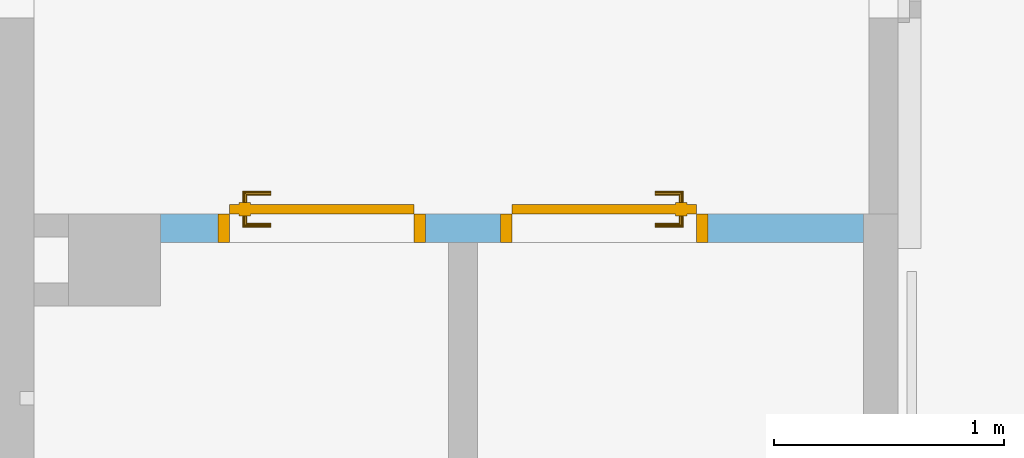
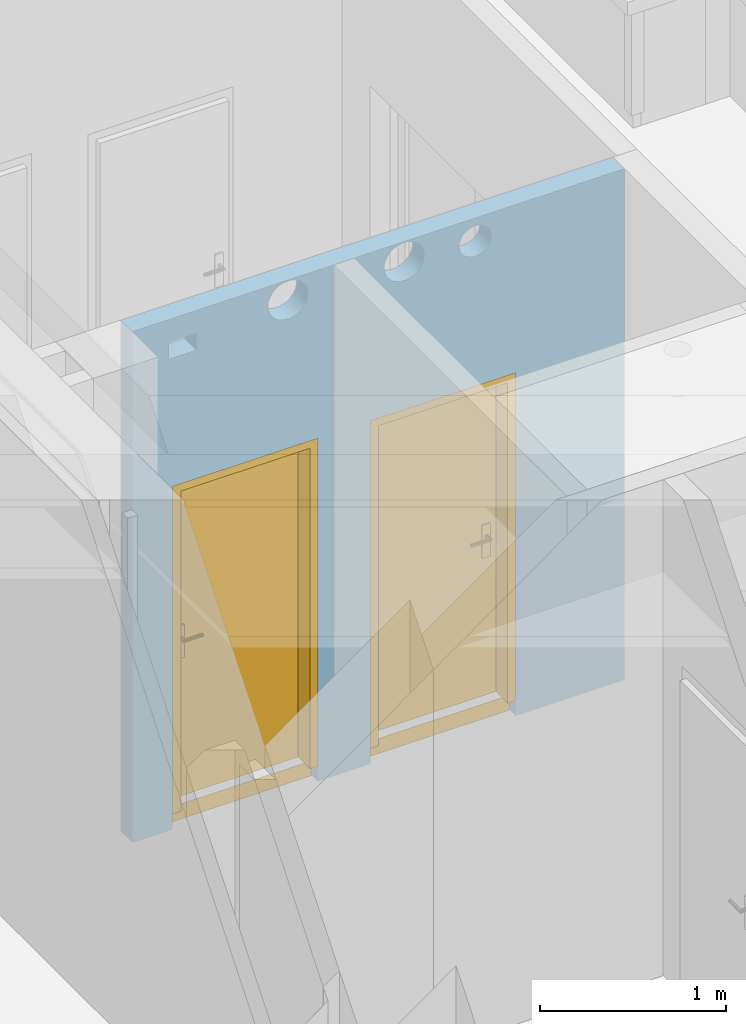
# One storey, part 75 of 140: 2 doors, 6 openings, plus 1 element that does not belong to this part.
"""IFC4 building model written with IfcOpenShell, lengths in metres."""

from ifc_helpers import new_model, entity, si_unit, converted_unit, derived_unit, frame, frame_2d, origin, origin_with_axes, place, context, subcontext, project, spatial, polyline, rectangle, outline, extrude, closed_shell, open_shell, surface_model, source, transform, mapped, material, layer, layer_set, layer_usage, type_object, element, fill, save


model = new_model("IFC4")

# Units and contexts
model_context = context("Model", 3, precision=1e-05, world=origin())
body_context = subcontext(model_context, "Body", "Model", "MODEL_VIEW")
ifc_project = project(units=[si_unit("LENGTHUNIT", "METRE"), si_unit("AREAUNIT", "SQUARE_METRE"), si_unit("VOLUMEUNIT", "CUBIC_METRE"), si_unit("MASSUNIT", "GRAM", prefix="KILO"), converted_unit("PLANEANGLEUNIT", "DEGREE", entity("IfcPlaneAngleMeasure", 0.0174532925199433), si_unit("PLANEANGLEUNIT", "RADIAN"), dimensions=[0, 0, 0, 0, 0, 0, 0]), derived_unit("THERMALTRANSMITTANCEUNIT", [(si_unit("POWERUNIT", "WATT"), 1), (si_unit("THERMODYNAMICTEMPERATUREUNIT", "KELVIN"), -1), (si_unit("LENGTHUNIT", "METRE"), -2)]), derived_unit("VOLUMETRICFLOWRATEUNIT", [(si_unit("LENGTHUNIT", "METRE"), 3), (converted_unit("TIMEUNIT", "hour", entity("IfcTimeMeasure", 3600.0), si_unit("TIMEUNIT", "SECOND"), dimensions=[0, 0, 1, 0, 0, 0, 0]), -1), (si_unit("LENGTHUNIT", "METRE"), -1)])], contexts=[model_context])

# Site, building, storey
site_placement = place(None, origin())
site = spatial("IfcSite", under=ifc_project, at=site_placement, Name="3. ASŘ", CompositionType="ELEMENT")
building_placement = place(site_placement, origin())
building = spatial("IfcBuilding", under=site, at=building_placement, Name="Pavilon C", CompositionType="ELEMENT")
storey_placement = place(building_placement, origin())
storey = spatial("IfcBuildingStorey", under=building, at=storey_placement, Name="Půdorys 1.NP", CompositionType="ELEMENT", Elevation=0.0)

# Wall, openings, doors
ifc_material = material(Name="SDK - 1 KCE + DVOJITÉ OPLÁŠTĚNÍ")
ifc_layer = layer(ifc_material, 0.125)
ifc_layer_set = layer_set([ifc_layer])
ifc_layer_usage = layer_usage(ifc_layer_set, "AXIS2", "POSITIVE", -0.125)
wall_placement = place(storey_placement, frame((37.75, -11.725, -0.1)))
wall = element("IfcWall", 1, at=wall_placement, inside=storey, material=ifc_layer_usage, Name="SDK - 1 KCE + DVOJITÉ OPLÁŠTĚNÍ", context=body_context, shape_type="SweptSolid", body=[
    extrude(rectangle(XDim=3.05, YDim=0.125, at=frame_2d((1.525, 0.0625), x_axis=(1.0, 0.0))), origin_with_axes(), (0.0, 0.0, 1.0), 3.35),
])
opening_1_placement = place(wall_placement, frame((0.25, 0.0, 0.0), z_axis=(0.0, 1.0, 0.0), x_axis=(0.0, 0.0, 1.0)))
opening_1 = element("IfcOpeningElement", 2, at=opening_1_placement, cuts=wall, Name="Dveřní otvor", ObjectType="Opening", context=body_context, shape_type="SweptSolid", body=[
    extrude(outline(polyline([(0.0, 0.9), (2.25, 0.9), (2.25, 0.0), (0.0, 0.0), (0.0, 0.9)])), origin_with_axes(), (0.0, 0.0, 1.0), 0.125),
])
opening_2_placement = place(wall_placement, frame((1.475, 0.0, 0.0), z_axis=(0.0, 1.0, 0.0), x_axis=(0.0, 0.0, 1.0)))
opening_2 = element("IfcOpeningElement", 3, at=opening_2_placement, cuts=wall, Name="Dveřní otvor", ObjectType="Opening", context=body_context, shape_type="SweptSolid", body=[
    extrude(outline(polyline([(0.0, 0.9), (2.25, 0.9), (2.25, 0.0), (0.0, 0.0), (0.0, 0.9)])), origin_with_axes(), (0.0, 0.0, 1.0), 0.125),
])
opening_3_placement = place(wall_placement, frame((0.2225, 7.27595761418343e-15, 3.09), z_axis=(0.0, 1.0, 0.0), x_axis=(0.0, 0.0, 1.0)))
element("IfcOpeningElement", 4, at=opening_3_placement, cuts=wall, Name="ZTI", ObjectType="Opening", context=body_context, shape_type="SweptSolid", body=[
    extrude(outline(polyline([(0.0, 0.175), (0.11, 0.175), (0.11, 0.0), (0.0, 0.0), (0.0, 0.175)])), origin_with_axes(), (0.0, 0.0, 1.0), 0.125),
])
opening_4_placement = place(wall_placement, frame((1.81000001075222, 0.125000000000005, 3.09500000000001), z_axis=(0.0, -1.0, 0.0), x_axis=(0.0, 0.0, 1.0)))
element("IfcOpeningElement", 5, at=opening_4_placement, cuts=wall, Name="VZT", ObjectType="Opening", context=body_context, shape_type="SweptSolid", body=[
    extrude(outline(polyline([(0.124999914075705, 0.25), (0.138066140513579, 0.249315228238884), (0.150989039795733, 0.247268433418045), (0.163627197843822, 0.243882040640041), (0.175842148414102, 0.239193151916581), (0.187500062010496, 0.233253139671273), (0.198473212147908, 0.226127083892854), (0.208641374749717, 0.21789305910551), (0.21789314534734, 0.208641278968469), (0.226127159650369, 0.198473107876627), (0.233253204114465, 0.187499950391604), (0.239193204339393, 0.175842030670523), (0.243882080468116, 0.163627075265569), (0.247268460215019, 0.150988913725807), (0.24931524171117, 0.13806601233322), (0.249999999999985, 0.124999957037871), (0.249315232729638, 0.111933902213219), (0.247268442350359, 0.099011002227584), (0.243882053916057, 0.0863728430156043), (0.239193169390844, 0.0741578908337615), (0.23325316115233, 0.0624999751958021), (0.22612710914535, 0.0515268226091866), (0.21789308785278, 0.0413586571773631), (0.208641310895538, 0.0321068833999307), (0.19847314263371, 0.023872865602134), (0.18749998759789, 0.0167468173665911), (0.175842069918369, 0.01080681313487), (0.163627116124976, 0.00611793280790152), (0.150988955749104, 0.00273154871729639), (0.138066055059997, 0.000684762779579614), (0.124999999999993, 0.0), (0.111933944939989, 0.000684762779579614), (0.0990110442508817, 0.00273154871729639), (0.0863728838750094, 0.00611793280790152), (0.0741579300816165, 0.01080681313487), (0.0625000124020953, 0.0167468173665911), (0.0515268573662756, 0.023872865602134), (0.0413586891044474, 0.0321068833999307), (0.0321069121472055, 0.0413586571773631), (0.023872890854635, 0.0515268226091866), (0.0167468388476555, 0.0624999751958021), (0.0108068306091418, 0.0741578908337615), (0.00611794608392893, 0.0863728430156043), (0.00273155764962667, 0.099011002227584), (0.000684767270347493, 0.111933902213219), (0.0, 0.124999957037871), (0.000684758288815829, 0.13806601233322), (0.00273153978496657, 0.150988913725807), (0.00611791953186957, 0.163627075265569), (0.0108067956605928, 0.175842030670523), (0.0167467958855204, 0.187499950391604), (0.0238728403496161, 0.198473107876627), (0.0321068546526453, 0.208641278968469), (0.0413586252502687, 0.21789305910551), (0.0515267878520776, 0.226127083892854), (0.0624999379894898, 0.233253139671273), (0.0741578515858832, 0.239193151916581), (0.0863728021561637, 0.243882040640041), (0.0990109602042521, 0.247268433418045), (0.111933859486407, 0.249315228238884), (0.124999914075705, 0.25)])), origin_with_axes(), (0.0, 0.0, 1.0), 0.125),
])
opening_5_placement = place(wall_placement, frame((1.09000001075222, 0.125000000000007, 3.09500000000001), z_axis=(0.0, -1.0, 0.0), x_axis=(0.0, 0.0, 1.0)))
element("IfcOpeningElement", 6, at=opening_5_placement, cuts=wall, Name="VZT", ObjectType="Opening", context=body_context, shape_type="SweptSolid", body=[
    extrude(outline(polyline([(0.124999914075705, 0.25), (0.138066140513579, 0.249315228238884), (0.150989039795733, 0.247268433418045), (0.163627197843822, 0.243882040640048), (0.175842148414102, 0.239193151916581), (0.187500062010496, 0.23325313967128), (0.198473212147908, 0.226127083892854), (0.208641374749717, 0.217893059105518), (0.21789314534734, 0.208641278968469), (0.226127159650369, 0.198473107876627), (0.233253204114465, 0.187499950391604), (0.239193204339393, 0.175842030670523), (0.243882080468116, 0.163627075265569), (0.247268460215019, 0.150988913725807), (0.24931524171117, 0.13806601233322), (0.249999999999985, 0.124999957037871), (0.249315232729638, 0.111933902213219), (0.247268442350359, 0.099011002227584), (0.243882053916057, 0.0863728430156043), (0.239193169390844, 0.0741578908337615), (0.23325316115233, 0.0624999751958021), (0.22612710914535, 0.0515268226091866), (0.21789308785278, 0.0413586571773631), (0.208641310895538, 0.0321068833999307), (0.19847314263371, 0.023872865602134), (0.18749998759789, 0.0167468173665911), (0.175842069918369, 0.01080681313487), (0.163627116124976, 0.00611793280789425), (0.150988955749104, 0.00273154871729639), (0.138066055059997, 0.00068476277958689), (0.124999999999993, 0.0), (0.111933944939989, 0.00068476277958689), (0.0990110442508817, 0.00273154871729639), (0.0863728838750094, 0.00611793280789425), (0.0741579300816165, 0.01080681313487), (0.0625000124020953, 0.0167468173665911), (0.0515268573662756, 0.023872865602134), (0.0413586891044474, 0.0321068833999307), (0.0321069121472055, 0.0413586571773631), (0.023872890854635, 0.0515268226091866), (0.0167468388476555, 0.0624999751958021), (0.0108068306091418, 0.0741578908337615), (0.00611794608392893, 0.0863728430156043), (0.00273155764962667, 0.099011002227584), (0.000684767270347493, 0.111933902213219), (0.0, 0.124999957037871), (0.000684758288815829, 0.13806601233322), (0.00273153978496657, 0.150988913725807), (0.00611791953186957, 0.163627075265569), (0.0108067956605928, 0.175842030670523), (0.0167467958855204, 0.187499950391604), (0.0238728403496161, 0.198473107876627), (0.0321068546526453, 0.208641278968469), (0.0413586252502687, 0.217893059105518), (0.0515267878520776, 0.226127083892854), (0.0624999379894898, 0.23325313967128), (0.0741578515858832, 0.239193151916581), (0.0863728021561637, 0.243882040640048), (0.0990109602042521, 0.247268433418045), (0.111933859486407, 0.249315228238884), (0.124999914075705, 0.25)])), origin_with_axes(), (0.0, 0.0, 1.0), 0.125),
])
opening_6_placement = place(wall_placement, frame((2.225, 0.125, 3.1), z_axis=(0.0, -1.0, 0.0), x_axis=(0.0, 0.0, 1.0)))
element("IfcOpeningElement", 7, at=opening_6_placement, cuts=wall, Name="ZTI", ObjectType="Opening", context=body_context, shape_type="SweptSolid", body=[
    extrude(outline(polyline([(0.0999999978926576, 0.2), (0.110452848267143, 0.199452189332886), (0.120791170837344, 0.197814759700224), (0.130901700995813, 0.195105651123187), (0.14067366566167, 0.191354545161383), (0.150000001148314, 0.186602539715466), (0.15877852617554, 0.180901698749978), (0.166913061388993, 0.174314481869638), (0.174314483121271, 0.166913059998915), (0.180901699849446, 0.158778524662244), (0.186602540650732, 0.149999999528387), (0.191354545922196, 0.140673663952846), (0.195105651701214, 0.130901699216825), (0.197814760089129, 0.120791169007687), (0.19945218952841, 0.110452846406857), (0.2, 0.100000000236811), (0.199452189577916, 0.0895471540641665), (0.197814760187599, 0.0792088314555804), (0.195105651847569, 0.0690983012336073), (0.191354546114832, 0.0593263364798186), (0.186602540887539, 0.0500000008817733), (0.180901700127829, 0.0412214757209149), (0.174314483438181, 0.0330869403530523), (0.166913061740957, 0.0256855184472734), (0.158778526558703, 0.0190983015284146), (0.150000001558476, 0.0133974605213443), (0.140673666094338, 0.00864545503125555), (0.130901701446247, 0.00489434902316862), (0.120791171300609, 0.00218524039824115), (0.110452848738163, 0.000547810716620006), (0.0999999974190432, 0.0), (0.0895471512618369, 0.000547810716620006), (0.0792088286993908, 0.00218524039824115), (0.069098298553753, 0.00489434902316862), (0.0593263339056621, 0.00864545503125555), (0.0499999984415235, 0.0133974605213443), (0.0412214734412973, 0.0190983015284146), (0.0330869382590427, 0.0256855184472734), (0.0256855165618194, 0.0330869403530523), (0.0190982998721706, 0.0412214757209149), (0.0133974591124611, 0.0500000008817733), (0.00864545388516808, 0.0593263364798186), (0.00489434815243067, 0.0690983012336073), (0.00218523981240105, 0.0792088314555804), (0.00054781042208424, 0.0895471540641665), (0.0, 0.100000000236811), (0.00054781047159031, 0.110452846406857), (0.00218523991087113, 0.120791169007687), (0.00489434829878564, 0.130901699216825), (0.00864545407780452, 0.140673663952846), (0.013397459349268, 0.149999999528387), (0.0190983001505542, 0.158778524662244), (0.0256855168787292, 0.166913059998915), (0.0330869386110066, 0.174314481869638), (0.0412214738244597, 0.180901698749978), (0.0499999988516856, 0.186602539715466), (0.0593263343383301, 0.191354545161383), (0.0690982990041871, 0.195105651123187), (0.0792088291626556, 0.197814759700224), (0.0895471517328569, 0.199452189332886), (0.0999999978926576, 0.2)])), origin_with_axes(), (0.0, 0.0, 1.0), 0.125),
])
door_type_1 = type_object("IfcDoorType", Name="II.D10", OperationType="NOTDEFINED", ParameterTakesPrecedence=False, PredefinedType="DOOR")
shared_shape_1 = source(origin_with_axes(), body_context, "Body", "SurfaceModel", [
    surface_model("IfcShellBasedSurfaceModel", [(0.0, 0.0625, 0.0), (0.9, 0.0625, 0.0), (0.9, 0.0625, 0.1), (0.0, 0.0625, 0.1)], [open_shell([[[0, 1, 2, 3]]], orient=[[False]])]),
    surface_model("IfcShellBasedSurfaceModel", [(0.0, 0.125, 2.25), (0.0, 0.125, 0.101), (0.05, 0.125, 0.101), (0.05, 0.125, 2.25), (0.0, 0.0, 0.101), (0.0, 2.70006239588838e-16, 2.25), (0.05, 2.70006239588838e-16, 2.25), (0.05, 0.0, 0.101)], [closed_shell([[[0, 1, 2, 3]], [[4, 5, 6, 7]], [[1, 0, 5, 4]], [[2, 1, 4, 7]], [[3, 2, 7, 6]], [[0, 3, 6, 5]]], orient=[[False], [False], [False], [False], [False], [False]])]),
    surface_model("IfcShellBasedSurfaceModel", [(0.85, 0.125, 2.25), (0.85, 0.125, 0.101), (0.9, 0.125, 0.101), (0.9, 0.125, 2.25), (0.85, 0.0, 0.101), (0.85, 2.70006239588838e-16, 2.25), (0.9, 2.70006239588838e-16, 2.25), (0.9, 0.0, 0.101)], [closed_shell([[[0, 1, 2, 3]], [[4, 5, 6, 7]], [[1, 0, 5, 4]], [[2, 1, 4, 7]], [[3, 2, 7, 6]], [[0, 3, 6, 5]]], orient=[[False], [False], [False], [False], [False], [False]])]),
    surface_model("IfcShellBasedSurfaceModel", [(0.05, 0.125, 2.25), (0.05, 0.125, 2.2), (0.85, 0.125, 2.2), (0.85, 0.125, 2.25), (0.05, 2.55795384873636e-16, 2.2), (0.05, 2.55795384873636e-16, 2.25), (0.85, 2.55795384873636e-16, 2.25), (0.85, 2.55795384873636e-16, 2.2)], [closed_shell([[[0, 1, 2, 3]], [[4, 5, 6, 7]], [[1, 0, 5, 4]], [[2, 1, 4, 7]], [[3, 2, 7, 6]], [[0, 3, 6, 5]]], orient=[[False], [False], [False], [False], [False], [False]])]),
    surface_model("IfcShellBasedSurfaceModel", [(0.05, 0.165, 2.2), (0.05, 0.165, 0.101), (0.85, 0.165, 0.101), (0.85, 0.165, 2.2), (0.05, 0.125, 0.101), (0.05, 0.125, 2.2), (0.85, 0.125, 2.2), (0.85, 0.125, 0.101)], [closed_shell([[[0, 1, 2, 3]], [[4, 5, 6, 7]], [[1, 0, 5, 4]], [[2, 1, 4, 7]], [[3, 2, 7, 6]], [[0, 3, 6, 5]]], orient=[[False], [False], [False], [False], [False], [False]])]),
    surface_model("IfcShellBasedSurfaceModel", [(0.76, 0.125, 1.226), (0.76, 0.125, 1.011), (0.81, 0.125, 1.011), (0.81, 0.125, 1.226), (0.76, 0.115, 1.011), (0.76, 0.115, 1.226), (0.81, 0.115, 1.226), (0.81, 0.115, 1.011)], [closed_shell([[[0, 1, 2, 3]], [[4, 5, 6, 7]], [[1, 0, 5, 4]], [[2, 1, 4, 7]], [[3, 2, 7, 6]], [[0, 3, 6, 5]]], orient=[[False], [False], [False], [False], [False], [False]])]),
    surface_model("IfcShellBasedSurfaceModel", [(0.785, 0.115, 1.161), (0.78, 0.115, 1.15966025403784), (0.776339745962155, 0.115, 1.156), (0.775, 0.115, 1.151), (0.776339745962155, 0.115, 1.146), (0.78, 0.115, 1.14233974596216), (0.785, 0.115, 1.141), (0.79, 0.115, 1.14233974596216), (0.793660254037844, 0.115, 1.146), (0.795, 0.115, 1.151), (0.793660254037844, 0.115, 1.156), (0.79, 0.115, 1.15966025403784), (0.79, 0.0700000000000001, 1.15966025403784), (0.785, 0.0750000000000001, 1.161), (0.793660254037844, 0.0663397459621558, 1.156), (0.795, 0.0650000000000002, 1.151), (0.793660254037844, 0.0663397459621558, 1.146), (0.79, 0.0700000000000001, 1.14233974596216), (0.785, 0.0750000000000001, 1.141), (0.78, 0.0800000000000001, 1.14233974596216), (0.776339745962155, 0.0836602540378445, 1.146), (0.775, 0.0850000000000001, 1.151), (0.776339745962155, 0.0836602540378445, 1.156), (0.78, 0.0800000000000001, 1.15966025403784), (0.67, 0.0700000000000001, 1.15966025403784), (0.67, 0.0750000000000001, 1.161), (0.67, 0.0663397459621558, 1.156), (0.67, 0.0650000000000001, 1.151), (0.67, 0.0663397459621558, 1.146), (0.67, 0.0700000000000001, 1.14233974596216), (0.67, 0.0750000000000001, 1.141), (0.67, 0.0800000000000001, 1.14233974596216), (0.67, 0.0836602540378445, 1.146), (0.67, 0.0850000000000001, 1.151), (0.67, 0.0836602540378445, 1.156), (0.67, 0.0800000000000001, 1.15966025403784)], [open_shell([[[0, 1, 2, 3, 4, 5, 6, 7, 8, 9, 10, 11]], [[0, 11, 12, 13]], [[11, 10, 14, 12]], [[10, 9, 15, 14]], [[9, 8, 16, 15]], [[8, 7, 17, 16]], [[7, 6, 18, 17]], [[6, 5, 19, 18]], [[5, 4, 20, 19]], [[4, 3, 21, 20]], [[3, 2, 22, 21]], [[2, 1, 23, 22]], [[1, 0, 13, 23]], [[13, 12, 24, 25]], [[12, 14, 26, 24]], [[14, 15, 27, 26]], [[15, 16, 28, 27]], [[16, 17, 29, 28]], [[17, 18, 30, 29]], [[18, 19, 31, 30]], [[19, 20, 32, 31]], [[20, 21, 33, 32]], [[21, 22, 34, 33]], [[22, 23, 35, 34]], [[23, 13, 25, 35]]], orient=[[False], [False], [False], [False], [False], [False], [False], [False], [False], [False], [False], [False], [False], [False], [False], [False], [False], [False], [False], [False], [False], [False], [False], [False], [False]])]),
    surface_model("IfcShellBasedSurfaceModel", [(0.76, 0.165, 1.226), (0.81, 0.165, 1.226), (0.81, 0.165, 1.011), (0.76, 0.165, 1.011), (0.76, 0.175, 1.011), (0.81, 0.175, 1.011), (0.81, 0.175, 1.226), (0.76, 0.175, 1.226)], [closed_shell([[[0, 1, 2, 3]], [[4, 5, 6, 7]], [[3, 4, 7, 0]], [[2, 5, 4, 3]], [[1, 6, 5, 2]], [[0, 7, 6, 1]]], orient=[[False], [False], [False], [False], [False], [False]])]),
    surface_model("IfcShellBasedSurfaceModel", [(0.785, 0.175, 1.161), (0.79, 0.175, 1.15966025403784), (0.793660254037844, 0.175, 1.156), (0.795, 0.175, 1.151), (0.793660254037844, 0.175, 1.146), (0.79, 0.175, 1.14233974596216), (0.785, 0.175, 1.141), (0.78, 0.175, 1.14233974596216), (0.776339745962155, 0.175, 1.146), (0.775, 0.175, 1.151), (0.776339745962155, 0.175, 1.156), (0.78, 0.175, 1.15966025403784), (0.785, 0.215, 1.161), (0.79, 0.22, 1.15966025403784), (0.793660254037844, 0.223660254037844, 1.156), (0.795, 0.225, 1.151), (0.793660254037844, 0.223660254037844, 1.146), (0.79, 0.22, 1.14233974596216), (0.785, 0.215, 1.141), (0.78, 0.21, 1.14233974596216), (0.776339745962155, 0.206339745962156, 1.146), (0.775, 0.205, 1.151), (0.776339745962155, 0.206339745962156, 1.156), (0.78, 0.21, 1.15966025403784), (0.67, 0.215, 1.161), (0.67, 0.22, 1.15966025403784), (0.67, 0.223660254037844, 1.156), (0.67, 0.225, 1.151), (0.67, 0.223660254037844, 1.146), (0.67, 0.22, 1.14233974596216), (0.67, 0.215, 1.141), (0.67, 0.21, 1.14233974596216), (0.67, 0.206339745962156, 1.146), (0.67, 0.205, 1.151), (0.67, 0.206339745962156, 1.156), (0.67, 0.21, 1.15966025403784)], [open_shell([[[0, 1, 2, 3, 4, 5, 6, 7, 8, 9, 10, 11]], [[0, 12, 13, 1]], [[1, 13, 14, 2]], [[2, 14, 15, 3]], [[3, 15, 16, 4]], [[4, 16, 17, 5]], [[5, 17, 18, 6]], [[6, 18, 19, 7]], [[7, 19, 20, 8]], [[8, 20, 21, 9]], [[9, 21, 22, 10]], [[10, 22, 23, 11]], [[11, 23, 12, 0]], [[12, 24, 25, 13]], [[13, 25, 26, 14]], [[14, 26, 27, 15]], [[15, 27, 28, 16]], [[16, 28, 29, 17]], [[17, 29, 30, 18]], [[18, 30, 31, 19]], [[19, 31, 32, 20]], [[20, 32, 33, 21]], [[21, 33, 34, 22]], [[22, 34, 35, 23]], [[23, 35, 24, 12]]], orient=[[False], [False], [False], [False], [False], [False], [False], [False], [False], [False], [False], [False], [False], [False], [False], [False], [False], [False], [False], [False], [False], [False], [False], [False], [False]])]),
])
door_1_placement = place(opening_1_placement, frame((0.0, 0.9, 0.0), z_axis=(1.0, 0.0, 0.0), x_axis=(0.0, -1.0, 0.0)))
door_1 = element("IfcDoor", 8, at=door_1_placement, inside=storey, type_object=door_type_1, Name="II.D10", OverallHeight=2.25, OverallWidth=0.9, context=body_context, shape_type="MappedRepresentation", body=[
    mapped(shared_shape_1, transform((0.0, 0.0, 0.0), x_axis=(1.0, 0.0, 0.0), y_axis=(0.0, -1.0, 0.0), z_axis=(0.0, 0.0, 1.0), scale=1.0)),
])
fill(opening_1, door_1)
door_type_2 = type_object("IfcDoorType", Name="II.D11", OperationType="NOTDEFINED", ParameterTakesPrecedence=False, PredefinedType="DOOR")
shared_shape_2 = source(origin_with_axes(), body_context, "Body", "SurfaceModel", [
    surface_model("IfcShellBasedSurfaceModel", [(0.0, 0.0625, 0.0), (0.9, 0.0625, 0.0), (0.9, 0.0625, 0.1), (0.0, 0.0625, 0.1)], [open_shell([[[0, 1, 2, 3]]], orient=[[False]])]),
    surface_model("IfcShellBasedSurfaceModel", [(0.0, 0.125, 2.25), (0.0, 0.125, 0.101), (0.05, 0.125, 0.101), (0.05, 0.125, 2.25), (0.0, 0.0, 0.101), (0.0, 2.70006239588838e-16, 2.25), (0.05, 2.70006239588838e-16, 2.25), (0.05, 0.0, 0.101)], [closed_shell([[[0, 1, 2, 3]], [[4, 5, 6, 7]], [[1, 0, 5, 4]], [[2, 1, 4, 7]], [[3, 2, 7, 6]], [[0, 3, 6, 5]]], orient=[[False], [False], [False], [False], [False], [False]])]),
    surface_model("IfcShellBasedSurfaceModel", [(0.85, 0.125, 2.25), (0.85, 0.125, 0.101), (0.9, 0.125, 0.101), (0.9, 0.125, 2.25), (0.85, 0.0, 0.101), (0.85, 2.70006239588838e-16, 2.25), (0.9, 2.70006239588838e-16, 2.25), (0.9, 0.0, 0.101)], [closed_shell([[[0, 1, 2, 3]], [[4, 5, 6, 7]], [[1, 0, 5, 4]], [[2, 1, 4, 7]], [[3, 2, 7, 6]], [[0, 3, 6, 5]]], orient=[[False], [False], [False], [False], [False], [False]])]),
    surface_model("IfcShellBasedSurfaceModel", [(0.05, 0.125, 2.25), (0.05, 0.125, 2.2), (0.85, 0.125, 2.2), (0.85, 0.125, 2.25), (0.05, 2.55795384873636e-16, 2.2), (0.05, 2.55795384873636e-16, 2.25), (0.85, 2.55795384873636e-16, 2.25), (0.85, 2.55795384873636e-16, 2.2)], [closed_shell([[[0, 1, 2, 3]], [[4, 5, 6, 7]], [[1, 0, 5, 4]], [[2, 1, 4, 7]], [[3, 2, 7, 6]], [[0, 3, 6, 5]]], orient=[[False], [False], [False], [False], [False], [False]])]),
    surface_model("IfcShellBasedSurfaceModel", [(0.05, 0.165, 2.2), (0.05, 0.165, 0.101), (0.85, 0.165, 0.101), (0.85, 0.165, 2.2), (0.05, 0.125, 0.101), (0.05, 0.125, 2.2), (0.85, 0.125, 2.2), (0.85, 0.125, 0.101)], [closed_shell([[[0, 1, 2, 3]], [[4, 5, 6, 7]], [[1, 0, 5, 4]], [[2, 1, 4, 7]], [[3, 2, 7, 6]], [[0, 3, 6, 5]]], orient=[[False], [False], [False], [False], [False], [False]])]),
    surface_model("IfcShellBasedSurfaceModel", [(0.76, 0.125, 1.226), (0.76, 0.125, 1.011), (0.81, 0.125, 1.011), (0.81, 0.125, 1.226), (0.76, 0.115, 1.011), (0.76, 0.115, 1.226), (0.81, 0.115, 1.226), (0.81, 0.115, 1.011)], [closed_shell([[[0, 1, 2, 3]], [[4, 5, 6, 7]], [[1, 0, 5, 4]], [[2, 1, 4, 7]], [[3, 2, 7, 6]], [[0, 3, 6, 5]]], orient=[[False], [False], [False], [False], [False], [False]])]),
    surface_model("IfcShellBasedSurfaceModel", [(0.785, 0.115, 1.161), (0.78, 0.115, 1.15966025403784), (0.776339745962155, 0.115, 1.156), (0.775, 0.115, 1.151), (0.776339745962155, 0.115, 1.146), (0.78, 0.115, 1.14233974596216), (0.785, 0.115, 1.141), (0.79, 0.115, 1.14233974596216), (0.793660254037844, 0.115, 1.146), (0.795, 0.115, 1.151), (0.793660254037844, 0.115, 1.156), (0.79, 0.115, 1.15966025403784), (0.79, 0.0700000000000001, 1.15966025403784), (0.785, 0.0750000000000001, 1.161), (0.793660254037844, 0.0663397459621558, 1.156), (0.795, 0.0650000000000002, 1.151), (0.793660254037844, 0.0663397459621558, 1.146), (0.79, 0.0700000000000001, 1.14233974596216), (0.785, 0.0750000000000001, 1.141), (0.78, 0.0800000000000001, 1.14233974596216), (0.776339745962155, 0.0836602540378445, 1.146), (0.775, 0.0850000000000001, 1.151), (0.776339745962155, 0.0836602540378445, 1.156), (0.78, 0.0800000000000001, 1.15966025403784), (0.67, 0.0700000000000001, 1.15966025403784), (0.67, 0.0750000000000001, 1.161), (0.67, 0.0663397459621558, 1.156), (0.67, 0.0650000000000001, 1.151), (0.67, 0.0663397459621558, 1.146), (0.67, 0.0700000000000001, 1.14233974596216), (0.67, 0.0750000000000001, 1.141), (0.67, 0.0800000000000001, 1.14233974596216), (0.67, 0.0836602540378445, 1.146), (0.67, 0.0850000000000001, 1.151), (0.67, 0.0836602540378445, 1.156), (0.67, 0.0800000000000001, 1.15966025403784)], [open_shell([[[0, 1, 2, 3, 4, 5, 6, 7, 8, 9, 10, 11]], [[0, 11, 12, 13]], [[11, 10, 14, 12]], [[10, 9, 15, 14]], [[9, 8, 16, 15]], [[8, 7, 17, 16]], [[7, 6, 18, 17]], [[6, 5, 19, 18]], [[5, 4, 20, 19]], [[4, 3, 21, 20]], [[3, 2, 22, 21]], [[2, 1, 23, 22]], [[1, 0, 13, 23]], [[13, 12, 24, 25]], [[12, 14, 26, 24]], [[14, 15, 27, 26]], [[15, 16, 28, 27]], [[16, 17, 29, 28]], [[17, 18, 30, 29]], [[18, 19, 31, 30]], [[19, 20, 32, 31]], [[20, 21, 33, 32]], [[21, 22, 34, 33]], [[22, 23, 35, 34]], [[23, 13, 25, 35]]], orient=[[False], [False], [False], [False], [False], [False], [False], [False], [False], [False], [False], [False], [False], [False], [False], [False], [False], [False], [False], [False], [False], [False], [False], [False], [False]])]),
    surface_model("IfcShellBasedSurfaceModel", [(0.76, 0.165, 1.226), (0.81, 0.165, 1.226), (0.81, 0.165, 1.011), (0.76, 0.165, 1.011), (0.76, 0.175, 1.011), (0.81, 0.175, 1.011), (0.81, 0.175, 1.226), (0.76, 0.175, 1.226)], [closed_shell([[[0, 1, 2, 3]], [[4, 5, 6, 7]], [[3, 4, 7, 0]], [[2, 5, 4, 3]], [[1, 6, 5, 2]], [[0, 7, 6, 1]]], orient=[[False], [False], [False], [False], [False], [False]])]),
    surface_model("IfcShellBasedSurfaceModel", [(0.785, 0.175, 1.161), (0.79, 0.175, 1.15966025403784), (0.793660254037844, 0.175, 1.156), (0.795, 0.175, 1.151), (0.793660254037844, 0.175, 1.146), (0.79, 0.175, 1.14233974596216), (0.785, 0.175, 1.141), (0.78, 0.175, 1.14233974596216), (0.776339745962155, 0.175, 1.146), (0.775, 0.175, 1.151), (0.776339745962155, 0.175, 1.156), (0.78, 0.175, 1.15966025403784), (0.785, 0.215, 1.161), (0.79, 0.22, 1.15966025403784), (0.793660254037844, 0.223660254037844, 1.156), (0.795, 0.225, 1.151), (0.793660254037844, 0.223660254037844, 1.146), (0.79, 0.22, 1.14233974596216), (0.785, 0.215, 1.141), (0.78, 0.21, 1.14233974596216), (0.776339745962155, 0.206339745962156, 1.146), (0.775, 0.205, 1.151), (0.776339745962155, 0.206339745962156, 1.156), (0.78, 0.21, 1.15966025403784), (0.67, 0.215, 1.161), (0.67, 0.22, 1.15966025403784), (0.67, 0.223660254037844, 1.156), (0.67, 0.225, 1.151), (0.67, 0.223660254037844, 1.146), (0.67, 0.22, 1.14233974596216), (0.67, 0.215, 1.141), (0.67, 0.21, 1.14233974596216), (0.67, 0.206339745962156, 1.146), (0.67, 0.205, 1.151), (0.67, 0.206339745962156, 1.156), (0.67, 0.21, 1.15966025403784)], [open_shell([[[0, 1, 2, 3, 4, 5, 6, 7, 8, 9, 10, 11]], [[0, 12, 13, 1]], [[1, 13, 14, 2]], [[2, 14, 15, 3]], [[3, 15, 16, 4]], [[4, 16, 17, 5]], [[5, 17, 18, 6]], [[6, 18, 19, 7]], [[7, 19, 20, 8]], [[8, 20, 21, 9]], [[9, 21, 22, 10]], [[10, 22, 23, 11]], [[11, 23, 12, 0]], [[12, 24, 25, 13]], [[13, 25, 26, 14]], [[14, 26, 27, 15]], [[15, 27, 28, 16]], [[16, 28, 29, 17]], [[17, 29, 30, 18]], [[18, 30, 31, 19]], [[19, 31, 32, 20]], [[20, 32, 33, 21]], [[21, 33, 34, 22]], [[22, 34, 35, 23]], [[23, 35, 24, 12]]], orient=[[False], [False], [False], [False], [False], [False], [False], [False], [False], [False], [False], [False], [False], [False], [False], [False], [False], [False], [False], [False], [False], [False], [False], [False], [False]])]),
])
door_2_placement = place(opening_2_placement, frame((0.0, 0.0, 0.0), z_axis=(1.0, 0.0, 0.0), x_axis=(0.0, 1.0, 0.0)))
door_2 = element("IfcDoor", 9, at=door_2_placement, inside=storey, type_object=door_type_2, Name="II.D11", OverallHeight=2.25, OverallWidth=0.9, context=body_context, shape_type="MappedRepresentation", body=[
    mapped(shared_shape_2, transform((0.0, 0.0, 0.0), x_axis=(1.0, 0.0, 0.0), y_axis=(0.0, 1.0, 0.0), z_axis=(0.0, 0.0, 1.0), scale=1.0)),
])
fill(opening_2, door_2)

save(model, "model.ifc")
